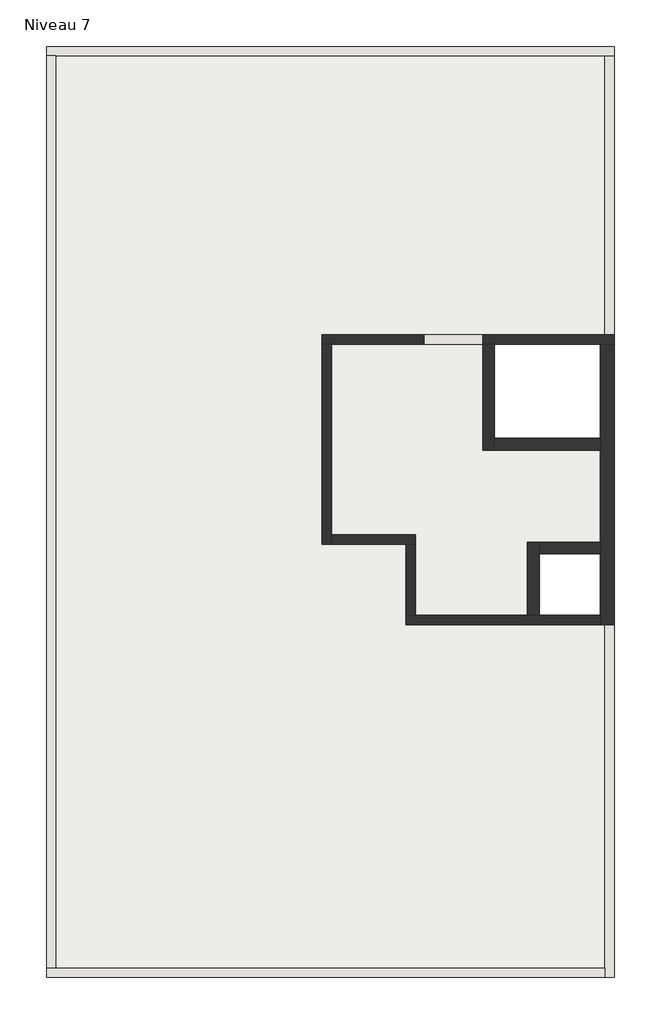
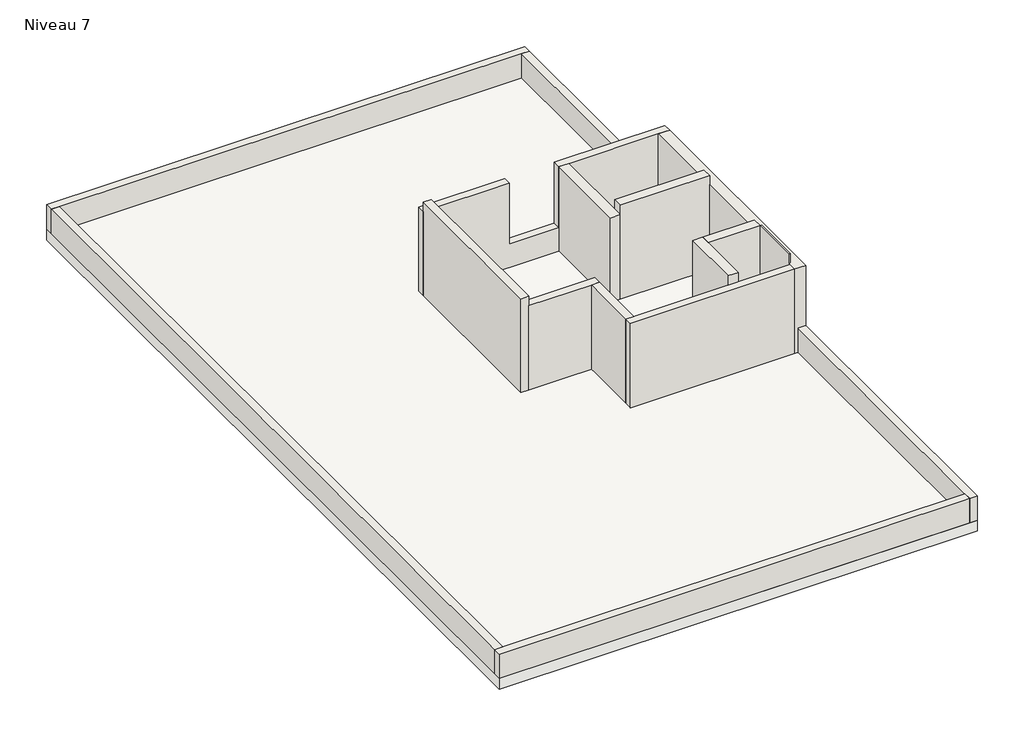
# One storey: 15 walls, 1 slab.
"""IFC4 building model written with IfcOpenShell, lengths in millimetres."""

from ifc_helpers import new_model, si_unit, frame, origin, place, context, project, spatial, polyline, outline, extrude, faceted_brep, element, save

model = new_model("IFC4")

# Units and contexts
model_context = context("Model", 3, world=origin())
ifc_project = project(units=[si_unit("LENGTHUNIT", "METRE", prefix="MILLI")], contexts=[model_context])

# Site, building, storey
site = spatial("IfcSite", under=ifc_project)
building = spatial("IfcBuilding", under=site)
storey = spatial("IfcBuildingStorey", under=building, Name="Niveau 7", Elevation=20280.0)

# Slab
placement = place(None, origin())
element("IfcSlab", 1, ObjectType="Plancher Béton 230 mm", at=placement, inside=storey, context=model_context, shape_type="Brep", body=[
    faceted_brep([(942.3079659, 8145.9030834, 20050.0), (942.3079659, 3175.9030834, 20050.0), (942.3079659, -1624.0969166, 20050.0), (942.3079659, -7494.0969166, 20050.0), (942.3079659, -7654.0969166, 20050.0), (-8697.6920341, -7654.0969166, 20050.0), (-8697.6920341, -7494.0969166, 20050.0), (-8697.6920341, 8145.9030834, 20050.0), (-8537.6920341, 8145.9030834, 20050.0), (782.3079659, 8145.9030834, 20050.0), (712.3079659, -464.0968949, 20050.0), (-327.6920341, -464.0968949, 20050.0), (-327.6920341, -1504.0968949, 20050.0), (712.3079659, -1504.0968949, 20050.0), (712.3079659, 3095.9031051, 20050.0), (-1087.6920341, 3095.9031051, 20050.0), (-1087.6920341, 3075.9030834, 20050.0), (-1087.6920341, 1475.9030834, 20050.0), (-1087.6920341, 1295.9031051, 20050.0), (712.3079659, 1295.9031051, 20050.0), (942.3079659, -7654.0969166, 20280.0), (942.3079659, 3095.9031051, 20280.0), (942.3079659, 3255.9031051, 20280.0), (942.3079659, 7985.9030834, 20280.0), (942.3079659, 8145.9030834, 20280.0), (-8697.6920341, 8145.9030834, 20280.0), (-8697.6920341, 7985.9030834, 20280.0), (-8697.6920341, -7494.0969166, 20280.0), (-8697.6920341, -7654.0969166, 20280.0), (782.3079659, -7654.0969166, 20280.0), (-327.6920341, -464.0968949, 20280.0), (712.3079659, -464.0968949, 20280.0), (712.3079659, -1504.0968949, 20280.0), (-327.6920341, -1504.0968949, 20280.0), (-1087.6920341, 3095.9031051, 20280.0), (712.3079659, 3095.9031051, 20280.0), (712.3079659, 3075.9030834, 20280.0), (712.3079659, 1295.9031051, 20280.0), (-1087.6920341, 1295.9031051, 20280.0), (-1087.6920341, 3075.9030834, 20280.0)], [[[0, 1, 2, 3, 4, 5, 6, 7, 8, 9], [10, 11, 12, 13], [14, 15, 16, 17, 18, 19]], [[20, 21, 22, 23, 24, 25, 26, 27, 28, 29], [30, 31, 32, 33], [34, 35, 36, 37, 38, 39]], [[4, 3, 2, 1, 0, 24, 23, 22, 21, 20]], [[5, 4, 20, 29, 28]], [[7, 6, 5, 28, 27, 26, 25]], [[0, 9, 8, 7, 25, 24]], [[14, 35, 34, 15]], [[15, 34, 39, 38, 18, 17, 16]], [[18, 38, 37, 19]], [[35, 14, 19, 37, 36]], [[10, 31, 30, 11]], [[11, 30, 33, 12]], [[12, 33, 32, 13]], [[31, 10, 13, 32]]]),
])

# Walls
element("IfcWall", 2, ObjectType="Béton 160 mm", at=placement, inside=storey, context=model_context, shape_type="Brep", body=[
    faceted_brep([(942.3079659, 3255.9031051, 20280.0), (782.3079659, 3255.9031051, 20280.0), (-4017.691895, 3255.9031051, 20280.0), (-4017.691895, 3255.9031051, 22080.0), (-2287.6920341, 3255.9031051, 22080.0), (-2287.6920341, 3255.9031051, 20780.0), (-1287.6920341, 3255.9031051, 20780.0), (-1287.6920341, 3255.9031051, 22080.0), (942.3079659, 3255.9031051, 22080.0), (942.3079659, 3255.9031051, 20800.0), (-4017.691895, 3095.9031051, 20280.0), (-3857.691895, 3095.9031051, 20280.0), (-1287.6920341, 3095.9031051, 20280.0), (-1087.6920341, 3095.9031051, 20280.0), (712.3079659, 3095.9031051, 20280.0), (942.3079659, 3095.9031051, 20280.0), (942.3079659, 3095.9031051, 22080.0), (712.3079659, 3095.9031051, 22080.0), (-1087.6920341, 3095.9031051, 22080.0), (-1287.6920341, 3095.9031051, 22080.0), (-1287.6920341, 3095.9031051, 20780.0), (-2287.6920341, 3095.9031051, 20780.0), (-2287.6920341, 3095.9031051, 22080.0), (-4017.691895, 3095.9031051, 22080.0)], [[[0, 1, 2, 3, 4, 5, 6, 7, 8, 9]], [[10, 11, 12, 13, 14, 15, 16, 17, 18, 19, 20, 21, 22, 23]], [[2, 1, 0, 15, 14, 13, 12, 11, 10]], [[2, 10, 23, 3]], [[20, 19, 7, 6]], [[21, 20, 6, 5]], [[22, 21, 5, 4]], [[15, 0, 9, 8, 16]], [[4, 3, 23, 22]], [[8, 7, 19, 18, 17, 16]]]),
])
element("IfcWall", 3, ObjectType="Béton 160 mm", at=placement, inside=storey, context=model_context, shape_type="Brep", body=[
    faceted_brep([(-4017.691895, 3095.9031051, 20280.0), (-4017.691895, -304.0968949, 20280.0), (-4017.691895, -304.0968949, 22280.0), (-4017.691895, -144.0968949, 22280.0), (-4017.691895, 3095.9031051, 22280.0), (-3857.691895, 3095.9031051, 20280.0), (-3857.691895, 3095.9031051, 22280.0), (-3857.691895, -144.0968949, 22280.0), (-3857.691895, -304.0968949, 22280.0), (-3857.691895, -304.0968949, 20280.0), (-3857.691895, -144.0968949, 20280.0)], [[[0, 1, 2, 3, 4]], [[5, 6, 7, 8, 9, 10]], [[1, 0, 5, 10, 9]], [[4, 3, 2, 8, 7, 6]], [[0, 4, 6, 5]], [[2, 1, 9, 8]]]),
])
element("IfcWall", 4, ObjectType="Béton 160 mm", at=placement, inside=storey, context=model_context, shape_type="Brep", body=[
    faceted_brep([(-3857.691895, -304.0968949, 20280.0), (-2592.6920341, -304.0968949, 20280.0), (-2432.6920341, -304.0968949, 20280.0), (-2432.6920341, -304.0968949, 22080.0), (-2592.6920341, -304.0968949, 22080.0), (-3857.691895, -304.0968949, 22080.0), (-2432.6920341, -144.0968949, 20280.0), (-3857.691895, -144.0968949, 20280.0), (-3857.691895, -144.0968949, 22080.0), (-2432.6920341, -144.0968949, 22080.0)], [[[0, 1, 2, 3, 4, 5]], [[6, 7, 8, 9]], [[2, 1, 0, 7, 6]], [[7, 0, 5, 8]], [[2, 6, 9, 3]], [[4, 3, 9, 8, 5]]]),
])
element("IfcWall", 5, ObjectType="Béton 230 mm", at=placement, inside=storey, context=model_context, shape_type="Brep", body=[
    faceted_brep([(712.3079659, 3095.9031051, 20280.0), (712.3079659, 1495.9031051, 20280.0), (712.3079659, 1295.9031051, 20280.0), (712.3079659, -264.0968949, 20280.0), (712.3079659, -464.0968949, 20280.0), (712.3079659, -1504.0968949, 20280.0), (712.3079659, -1664.0968949, 20280.0), (712.3079659, -1664.0968949, 22080.0), (712.3079659, -1464.0968949, 22080.0), (712.3079659, -1464.0968949, 22280.0), (712.3079659, -464.0968949, 22280.0), (712.3079659, -464.0968949, 22080.0), (712.3079659, 3095.9031051, 22080.0), (942.3079659, -1664.0968949, 20280.0), (942.3079659, 3095.9031051, 20280.0), (942.3079659, 3095.9031051, 22080.0), (942.3079659, -1664.0968949, 22080.0), (942.3079659, -1664.0968949, 20800.0), (782.3079659, -1664.0968949, 20280.0), (742.3079659, -1464.0968949, 22280.0), (742.3079659, -464.0968949, 22280.0), (742.3079659, -464.0968949, 22080.0), (742.3079659, -1464.0968949, 22080.0)], [[[0, 1, 2, 3, 4, 5, 6, 7, 8, 9, 10, 11, 12]], [[13, 14, 15, 16, 17]], [[6, 5, 4, 3, 2, 1, 0, 14, 13, 18]], [[10, 9, 19, 20]], [[14, 0, 12, 15]], [[6, 18, 13, 17, 16, 7]], [[21, 22, 8, 7, 16, 15, 12, 11]], [[22, 19, 9, 8]], [[22, 21, 20, 19]], [[20, 21, 11, 10]]]),
])
element("IfcWall", 6, ObjectType="Béton 160 mm", at=placement, inside=storey, context=model_context, shape_type="Brep", body=[
    faceted_brep([(712.3079659, -1504.0968949, 20280.0), (-327.6920341, -1504.0968949, 20280.0), (-527.6920341, -1504.0968949, 20280.0), (-2432.6920341, -1504.0968949, 20280.0), (-2592.6920341, -1504.0968949, 20280.0), (-2592.6920341, -1504.0968949, 22080.0), (-2432.6920341, -1504.0968949, 22080.0), (712.3079659, -1504.0968949, 22080.0), (-2592.6920341, -1664.0968949, 20280.0), (712.3079659, -1664.0968949, 20280.0), (712.3079659, -1664.0968949, 22080.0), (-2592.6920341, -1664.0968949, 22080.0)], [[[0, 1, 2, 3, 4, 5, 6, 7]], [[8, 9, 10, 11]], [[4, 3, 2, 1, 0, 9, 8]], [[4, 8, 11, 5]], [[9, 0, 7, 10]], [[7, 6, 5, 11, 10]]]),
])
element("IfcWall", 7, ObjectType="Béton 160 mm", at=placement, inside=storey, context=model_context, shape_type="SweptSolid", body=[
    extrude(outline(polyline([(-2432.6920341, -304.0968949), (-2432.6920341, -1504.0968949), (-2592.6920341, -1504.0968949), (-2592.6920341, -304.0968949), (-2432.6920341, -304.0968949)])), frame((0.0, 0.0, 20280.0), z_axis=(0.0, 0.0, 1.0), x_axis=(1.0, 0.0, 0.0)), (0.0, 0.0, 1.0), 1800.0),
])
element("IfcWall", 8, ObjectType="Béton 200 mm", at=placement, inside=storey, context=model_context, shape_type="Brep", body=[
    faceted_brep([(-1287.6920341, 3095.9031051, 20280.0), (-1287.6920341, 1295.9031051, 20280.0), (-1287.6920341, 1295.9031051, 22080.0), (-1287.6920341, 3095.9031051, 22080.0), (-1287.6920341, 3095.9031051, 20780.0), (-1087.6920341, 1295.9031051, 20280.0), (-1087.6920341, 1495.9031051, 20280.0), (-1087.6920341, 3095.9031051, 20280.0), (-1087.6920341, 3095.9031051, 22080.0), (-1087.6920341, 1295.9031051, 22080.0)], [[[0, 1, 2, 3, 4]], [[5, 6, 7, 8, 9]], [[1, 0, 7, 6, 5]], [[7, 0, 4, 3, 8]], [[1, 5, 9, 2]], [[3, 2, 9, 8]]]),
])
element("IfcWall", 9, ObjectType="Béton 200 mm", at=placement, inside=storey, context=model_context, shape_type="SweptSolid", body=[
    extrude(outline(polyline([(712.3079659, 1295.9031051), (-1087.6920341, 1295.9031051), (-1087.6920341, 1495.9031051), (712.3079659, 1495.9031051), (712.3079659, 1295.9031051)])), frame((0.0, 0.0, 20280.0), z_axis=(0.0, 0.0, 1.0), x_axis=(1.0, 0.0, 0.0)), (0.0, 0.0, 1.0), 2000.0),
])
element("IfcWall", 10, ObjectType="Béton 200 mm", at=placement, inside=storey, context=model_context, shape_type="Brep", body=[
    faceted_brep([(-327.6920341, -1504.0968949, 20280.0), (-327.6920341, -464.0968949, 20280.0), (-327.6920341, -264.0968949, 20280.0), (-327.6920341, -264.0968949, 22280.0), (-327.6920341, -464.0968949, 22280.0), (-327.6920341, -1504.0968949, 22280.0), (-527.6920341, -1504.0968949, 20280.0), (-527.6920341, -1504.0968949, 22280.0), (-527.6920341, -264.0968949, 22280.0), (-527.6920341, -264.0968949, 20280.0)], [[[0, 1, 2, 3, 4, 5]], [[6, 7, 8, 9]], [[2, 1, 0, 6, 9]], [[5, 4, 3, 8, 7]], [[3, 2, 9, 8]], [[0, 5, 7, 6]]]),
])
element("IfcWall", 11, ObjectType="Béton 200 mm", at=placement, inside=storey, context=model_context, shape_type="SweptSolid", body=[
    extrude(outline(polyline([(712.3079659, -464.0968949), (-327.6920341, -464.0968949), (-327.6920341, -264.0968949), (712.3079659, -264.0968949), (712.3079659, -464.0968949)])), frame((0.0, 0.0, 20280.0), z_axis=(0.0, 0.0, 1.0), x_axis=(1.0, 0.0, 0.0)), (0.0, 0.0, 1.0), 2000.0),
])
element("IfcWall", 12, ObjectType="Béton 160 mm", at=placement, inside=storey, context=model_context, shape_type="Brep", body=[
    faceted_brep([(-8697.6920341, 7985.9030834, 20280.0), (-8537.6920341, 7985.9030834, 20280.0), (782.3079659, 7985.9030834, 20280.0), (942.3079659, 7985.9030834, 20280.0), (942.3079659, 7985.9030834, 20800.0), (782.3079659, 7985.9030834, 20800.0), (-8537.6920341, 7985.9030834, 20800.0), (-8697.6920341, 7985.9030834, 20800.0), (-8697.6920341, 8145.9030834, 20280.0), (-8697.6920341, 8145.9030834, 20800.0), (942.3079659, 8145.9030834, 20800.0), (942.3079659, 8145.9030834, 20280.0)], [[[0, 1, 2, 3, 4, 5, 6, 7]], [[8, 9, 10, 11]], [[3, 2, 1, 0, 8, 11]], [[7, 6, 5, 4, 10, 9]], [[4, 3, 11, 10]], [[0, 7, 9, 8]]]),
])
element("IfcWall", 13, ObjectType="Béton 160 mm", at=placement, inside=storey, context=model_context, shape_type="SweptSolid", body=[
    extrude(outline(polyline([(782.3079659, 3255.9031051), (782.3079659, 7985.9030834), (942.3079659, 7985.9030834), (942.3079659, 3255.9031051), (782.3079659, 3255.9031051)])), frame((0.0, 0.0, 20280.0), z_axis=(0.0, 0.0, 1.0), x_axis=(1.0, 0.0, 0.0)), (0.0, 0.0, 1.0), 520.0),
])
element("IfcWall", 14, ObjectType="Béton 160 mm", at=placement, inside=storey, context=model_context, shape_type="Brep", body=[
    faceted_brep([(782.3079659, -1664.0968949, 20280.0), (782.3079659, -7494.0969166, 20280.0), (782.3079659, -7654.0969166, 20280.0), (782.3079659, -7654.0969166, 20800.0), (782.3079659, -7494.0969166, 20800.0), (782.3079659, -1664.0968949, 20800.0), (942.3079659, -1664.0968949, 20280.0), (942.3079659, -1664.0968949, 20800.0), (942.3079659, -7654.0969166, 20800.0), (942.3079659, -7654.0969166, 20280.0)], [[[0, 1, 2, 3, 4, 5]], [[6, 7, 8, 9]], [[2, 1, 0, 6, 9]], [[5, 4, 3, 8, 7]], [[0, 5, 7, 6]], [[3, 2, 9, 8]]]),
])
element("IfcWall", 15, ObjectType="Béton 160 mm", at=placement, inside=storey, context=model_context, shape_type="Brep", body=[
    faceted_brep([(782.3079659, -7494.0969166, 20280.0), (-8537.6920341, -7494.0969166, 20280.0), (-8697.6920341, -7494.0969166, 20280.0), (-8697.6920341, -7494.0969166, 20800.0), (-8537.6920341, -7494.0969166, 20800.0), (782.3079659, -7494.0969166, 20800.0), (782.3079659, -7654.0969166, 20280.0), (782.3079659, -7654.0969166, 20800.0), (-8697.6920341, -7654.0969166, 20800.0), (-8697.6920341, -7654.0969166, 20280.0)], [[[0, 1, 2, 3, 4, 5]], [[6, 7, 8, 9]], [[2, 1, 0, 6, 9]], [[5, 4, 3, 8, 7]], [[0, 5, 7, 6]], [[3, 2, 9, 8]]]),
])
element("IfcWall", 16, ObjectType="Béton 160 mm", at=placement, inside=storey, context=model_context, shape_type="SweptSolid", body=[
    extrude(outline(polyline([(-8537.6920341, 7985.9030834), (-8537.6920341, -7494.0969166), (-8697.6920341, -7494.0969166), (-8697.6920341, 7985.9030834), (-8537.6920341, 7985.9030834)])), frame((0.0, 0.0, 20280.0), z_axis=(0.0, 0.0, 1.0), x_axis=(1.0, 0.0, 0.0)), (0.0, 0.0, 1.0), 520.0),
])

save(model, "model.ifc")
